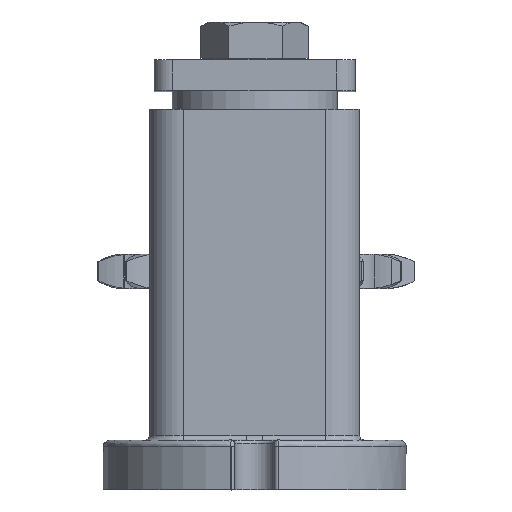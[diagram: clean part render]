
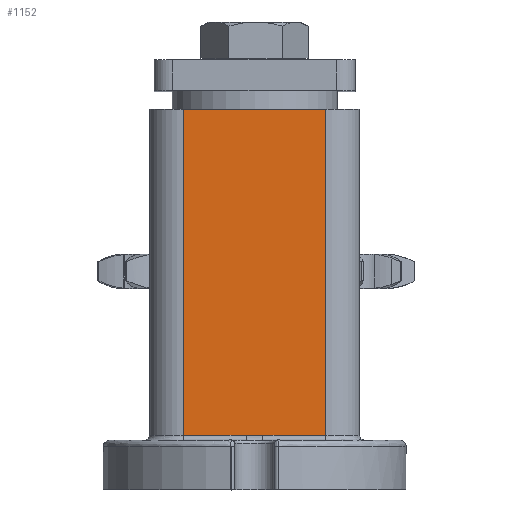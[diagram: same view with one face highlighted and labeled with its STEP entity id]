
A CAD part, top view. The second image highlights one B-rep face of the part: STEP entity #1152.
In plain terms, the highlighted planar face has unit normal (0, 0, 1).
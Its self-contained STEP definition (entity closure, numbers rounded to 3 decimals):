
#115 = LINE ( 'NONE', #3183, #6948 ) ;
#126 = CARTESIAN_POINT ( 'NONE',  ( -34., 1.5, 34. ) ) ;
#223 = LINE ( 'NONE', #126, #7461 ) ;
#226 = EDGE_CURVE ( 'NONE', #837, #738, #9415, .T. ) ;
#274 = ORIENTED_EDGE ( 'NONE', *, *, #226, .T. ) ;
#427 = CARTESIAN_POINT ( 'NONE',  ( -1.495, 1.477, 34. ) ) ;
#625 = CARTESIAN_POINT ( 'NONE',  ( -0.177, 1.45, 34. ) ) ;
#658 = CARTESIAN_POINT ( 'NONE',  ( -0.088, 1.45, 34. ) ) ;
#734 = CARTESIAN_POINT ( 'NONE',  ( -0.025, 1.45, 34. ) ) ;
#738 = VERTEX_POINT ( 'NONE', #1240 ) ;
#837 = VERTEX_POINT ( 'NONE', #4126 ) ;
#1070 = DIRECTION ( 'NONE',  ( 0., 0., 1. ) ) ;
#1152 = ADVANCED_FACE ( 'NONE', ( #8439 ), #8157, .T. ) ;
#1240 = CARTESIAN_POINT ( 'NONE',  ( 23., 1.5, 34. ) ) ;
#1498 = EDGE_CURVE ( 'NONE', #738, #6216, #115, .T. ) ;
#1522 = CARTESIAN_POINT ( 'NONE',  ( 0.467, 1.452, 34. ) ) ;
#1573 = DIRECTION ( 'NONE',  ( 0., 1., 0. ) ) ;
#1597 = CARTESIAN_POINT ( 'NONE',  ( 0.852, 1.46, 34. ) ) ;
#1719 = EDGE_LOOP ( 'NONE', ( #2240, #5748, #7637, #274, #10686, #8962 ) ) ;
#1940 = DIRECTION ( 'NONE',  ( 1., 0., 0. ) ) ;
#1988 = DIRECTION ( 'NONE',  ( 1., 0., 0. ) ) ;
#2143 = B_SPLINE_CURVE_WITH_KNOTS ( 'NONE', 3,
 ( #10918, #9263, #7476, #6506, #11076, #7403, #6862, #11316, #4260, #9576, #10204, #427, #11388, #10489, #9498, #6006, #2438, #625, #658, #5965, #734, #6902, #5062, #1522, #1597, #8734, #3096, #10520, #8412, #9611, #6938, #7750, #6658, #5219, #7825, #2518, #2404, #8622, #9535 ),
 .UNSPECIFIED., .F., .F.,
 ( 4, 1, 1, 1, 1, 2, 2, 1, 2, 2, 1, 1, 1, 1, 2, 2, 1, 1, 1, 2, 2, 1, 1, 1, 2, 2, 4 ),
 ( 0., 0.062, 0.094, 0.109, 0.117, 0.121, 0.125, 0.187, 0.219, 0.25, 0.375, 0.437, 0.469, 0.484, 0.492, 0.5, 0.625, 0.687, 0.719, 0.734, 0.75, 0.812, 0.844, 0.859, 0.867, 0.875, 1. ),
 .UNSPECIFIED. ) ;
#2240 = ORIENTED_EDGE ( 'NONE', *, *, #6558, .T. ) ;
#2404 = CARTESIAN_POINT ( 'NONE',  ( 2.21, 1.496, 34. ) ) ;
#2438 = CARTESIAN_POINT ( 'NONE',  ( -0.356, 1.451, 34. ) ) ;
#2518 = CARTESIAN_POINT ( 'NONE',  ( 1.935, 1.489, 34. ) ) ;
#2761 = VECTOR ( 'NONE', #6817, 1000. ) ;
#3096 = CARTESIAN_POINT ( 'NONE',  ( 1.146, 1.467, 34. ) ) ;
#3183 = CARTESIAN_POINT ( 'NONE',  ( 23., 0., 34. ) ) ;
#4126 = CARTESIAN_POINT ( 'NONE',  ( 2.693, 1.5, 34. ) ) ;
#4252 = LINE ( 'NONE', #6702, #4420 ) ;
#4260 = CARTESIAN_POINT ( 'NONE',  ( -1.959, 1.489, 34. ) ) ;
#4420 = VECTOR ( 'NONE', #6586, 1000. ) ;
#4471 = DIRECTION ( 'NONE',  ( 0., -1., 0. ) ) ;
#4691 = LINE ( 'NONE', #9744, #9393 ) ;
#4850 = EDGE_CURVE ( 'NONE', #6216, #8358, #4252, .T. ) ;
#5062 = CARTESIAN_POINT ( 'NONE',  ( 0.177, 1.449, 34. ) ) ;
#5219 = CARTESIAN_POINT ( 'NONE',  ( 1.895, 1.488, 34. ) ) ;
#5446 = CARTESIAN_POINT ( 'NONE',  ( 23., 107., 34. ) ) ;
#5705 = VERTEX_POINT ( 'NONE', #6370 ) ;
#5748 = ORIENTED_EDGE ( 'NONE', *, *, #8846, .T. ) ;
#5952 = EDGE_CURVE ( 'NONE', #5705, #837, #2143, .T. ) ;
#5965 = CARTESIAN_POINT ( 'NONE',  ( -0.05, 1.45, 34. ) ) ;
#6006 = CARTESIAN_POINT ( 'NONE',  ( -0.721, 1.455, 34. ) ) ;
#6185 = CARTESIAN_POINT ( 'NONE',  ( -23., 107., 34. ) ) ;
#6216 = VERTEX_POINT ( 'NONE', #5446 ) ;
#6370 = CARTESIAN_POINT ( 'NONE',  ( -2.693, 1.5, 34. ) ) ;
#6506 = CARTESIAN_POINT ( 'NONE',  ( -2.196, 1.495, 34. ) ) ;
#6558 = EDGE_CURVE ( 'NONE', #8358, #7801, #4691, .T. ) ;
#6586 = DIRECTION ( 'NONE',  ( -1., 0., 0. ) ) ;
#6658 = CARTESIAN_POINT ( 'NONE',  ( 1.852, 1.486, 34. ) ) ;
#6702 = CARTESIAN_POINT ( 'NONE',  ( -34., 107., 34. ) ) ;
#6817 = DIRECTION ( 'NONE',  ( 1., 0., 0. ) ) ;
#6862 = CARTESIAN_POINT ( 'NONE',  ( -1.988, 1.49, 34. ) ) ;
#6902 = CARTESIAN_POINT ( 'NONE',  ( -0.011, 1.45, 34. ) ) ;
#6938 = CARTESIAN_POINT ( 'NONE',  ( 1.552, 1.478, 34. ) ) ;
#6948 = VECTOR ( 'NONE', #1573, 1000. ) ;
#7403 = CARTESIAN_POINT ( 'NONE',  ( -2.014, 1.491, 34. ) ) ;
#7461 = VECTOR ( 'NONE', #1940, 1000. ) ;
#7476 = CARTESIAN_POINT ( 'NONE',  ( -2.421, 1.499, 34. ) ) ;
#7637 = ORIENTED_EDGE ( 'NONE', *, *, #5952, .T. ) ;
#7750 = CARTESIAN_POINT ( 'NONE',  ( 1.752, 1.484, 34. ) ) ;
#7801 = VERTEX_POINT ( 'NONE', #9831 ) ;
#7825 = CARTESIAN_POINT ( 'NONE',  ( 1.923, 1.488, 34. ) ) ;
#8157 = PLANE ( 'NONE',  #11509 ) ;
#8358 = VERTEX_POINT ( 'NONE', #6185 ) ;
#8412 = CARTESIAN_POINT ( 'NONE',  ( 1.239, 1.469, 34. ) ) ;
#8414 = CARTESIAN_POINT ( 'NONE',  ( -34., 1.5, 34. ) ) ;
#8439 = FACE_OUTER_BOUND ( 'NONE', #1719, .T. ) ;
#8622 = CARTESIAN_POINT ( 'NONE',  ( 2.457, 1.5, 34. ) ) ;
#8734 = CARTESIAN_POINT ( 'NONE',  ( 1.056, 1.464, 34. ) ) ;
#8846 = EDGE_CURVE ( 'NONE', #7801, #5705, #223, .T. ) ;
#8962 = ORIENTED_EDGE ( 'NONE', *, *, #4850, .T. ) ;
#9263 = CARTESIAN_POINT ( 'NONE',  ( -2.59, 1.5, 34. ) ) ;
#9393 = VECTOR ( 'NONE', #4471, 1000. ) ;
#9415 = LINE ( 'NONE', #8414, #2761 ) ;
#9498 = CARTESIAN_POINT ( 'NONE',  ( -1.046, 1.463, 34. ) ) ;
#9535 = CARTESIAN_POINT ( 'NONE',  ( 2.693, 1.5, 34. ) ) ;
#9576 = CARTESIAN_POINT ( 'NONE',  ( -1.837, 1.486, 34. ) ) ;
#9611 = CARTESIAN_POINT ( 'NONE',  ( 1.381, 1.473, 34. ) ) ;
#9744 = CARTESIAN_POINT ( 'NONE',  ( -23., 0., 34. ) ) ;
#9831 = CARTESIAN_POINT ( 'NONE',  ( -23., 1.5, 34. ) ) ;
#9911 = CARTESIAN_POINT ( 'NONE',  ( -34., 0., 34. ) ) ;
#10204 = CARTESIAN_POINT ( 'NONE',  ( -1.666, 1.482, 34. ) ) ;
#10489 = CARTESIAN_POINT ( 'NONE',  ( -1.322, 1.472, 34. ) ) ;
#10520 = CARTESIAN_POINT ( 'NONE',  ( 1.206, 1.468, 34. ) ) ;
#10686 = ORIENTED_EDGE ( 'NONE', *, *, #1498, .T. ) ;
#10918 = CARTESIAN_POINT ( 'NONE',  ( -2.693, 1.5, 34. ) ) ;
#11076 = CARTESIAN_POINT ( 'NONE',  ( -2.076, 1.492, 34. ) ) ;
#11316 = CARTESIAN_POINT ( 'NONE',  ( -1.97, 1.49, 34. ) ) ;
#11388 = CARTESIAN_POINT ( 'NONE',  ( -1.381, 1.473, 34. ) ) ;
#11509 = AXIS2_PLACEMENT_3D ( 'NONE', #9911, #1070, #1988 ) ;
